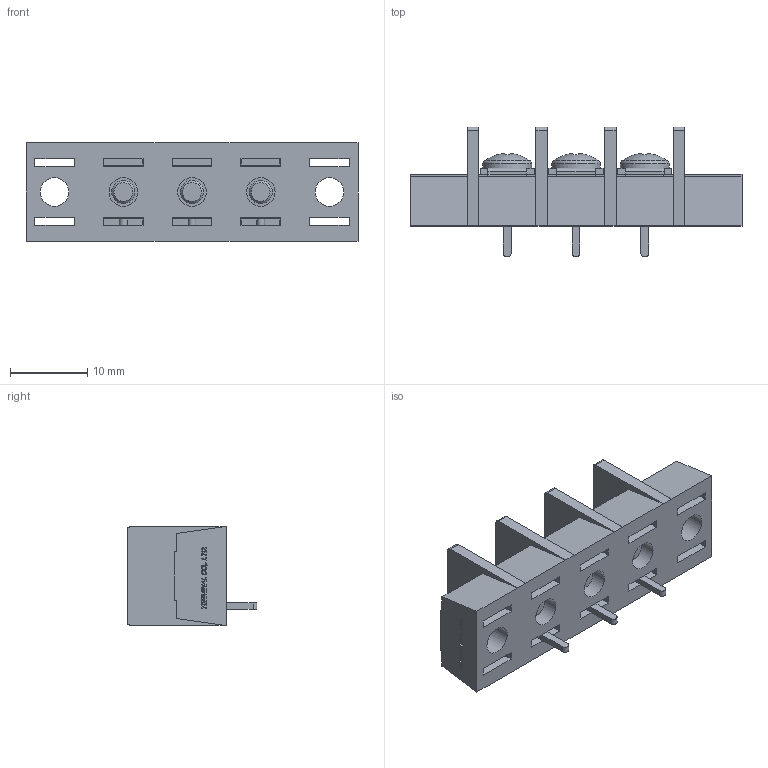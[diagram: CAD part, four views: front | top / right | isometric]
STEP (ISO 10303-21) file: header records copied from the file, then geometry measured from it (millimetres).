
FILE_DESCRIPTION(/* description */ ('Alibre Inc.'),/* implementation_level */ '2;1');
FILE_NAME(/* name */ 'export0',/* time_stamp */ '2015-10-20T08:19:46+09:00',/* author */ (''),/* organization */ (''),/* preprocessor_version */ 'ST-DEVELOPER v14',/* originating_system */ 'Alibre',/* authorisation */ '');
FILE_SCHEMA (('CONFIG_CONTROL_DESIGN'));
Length unit declared in the file: centimetre
Products named in the file (1): ID_1
Bounding box: 42.96 x 16.8 x 12.8 mm (x, y, z)
Volume: 3535.3 mm3; surface area: 4389.4 mm2
Topology: 1 solids, 52 shells, 1255 faces, 3253 edges, 2156 vertices
Faces by surface type: plane 935, bspline 260, cylinder 36, cone 15, torus 6, sphere 3
Full cylindrical faces by diameter (mm): 3 x6, 3.7 x5, 4.6 x5, 6.3 x3
Entity records: 36700 total; most frequent: CARTESIAN_POINT 8960, ORIENTED_EDGE 6428, DIRECTION 3780, EDGE_CURVE 3214, VECTOR 2497, LINE 2497, VERTEX_POINT 2145, EDGE_LOOP 1391
